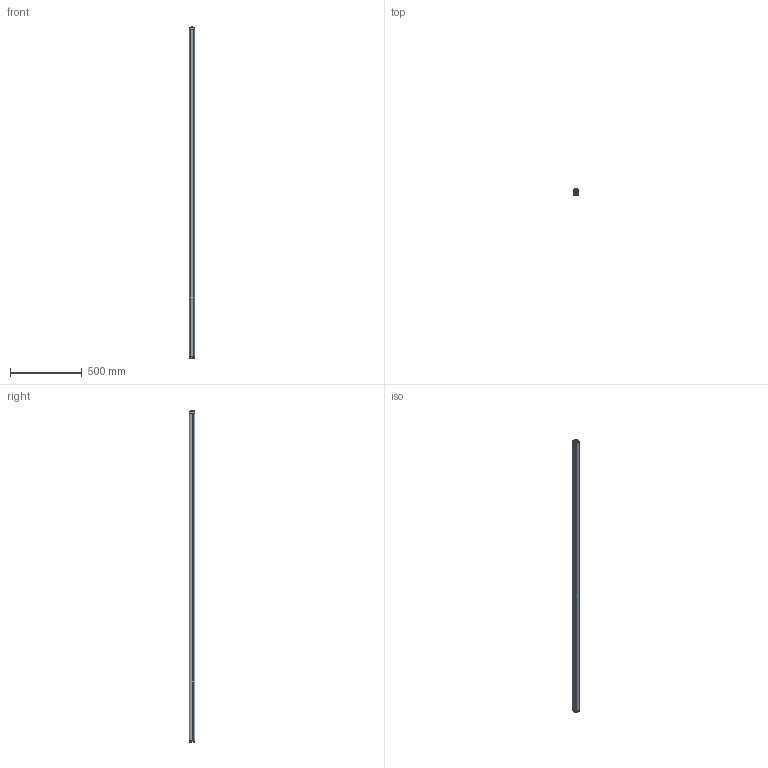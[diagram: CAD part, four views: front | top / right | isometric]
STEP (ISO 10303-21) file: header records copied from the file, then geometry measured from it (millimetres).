
FILE_DESCRIPTION(/* description */ (''),/* implementation_level */ '2;1');
FILE_NAME(/* name */ 'DSD-1026 DS2-05-07-225-JE _RX_STP.stp',/* time_stamp */ '2020-07-21T16:56:28+02:00',/* author */ (''),/* organization */ (''),/* preprocessor_version */ 'ST-DEVELOPER v16.7',/* originating_system */ 'SIEMENS PLM Software NX 12.0',/* authorisation */ '');
FILE_SCHEMA (('AUTOMOTIVE_DESIGN { 1 0 10303 214 3 1 1 1 }'));
Length unit declared in the file: millimetre
Products named in the file (1): fgut3274CB3Etkdj
Bounding box: 35 x 40.1 x 2314 mm (x, y, z)
Volume: 2797426.2 mm3; surface area: 447982.5 mm2
Topology: 1 solids, 7 shells, 1056 faces, 2651 edges, 1622 vertices
Faces by surface type: plane 402, cylinder 341, bspline 165, cone 98, sphere 28, torus 22
Full cylindrical faces by diameter (mm): 0.8 x8, 1 x4, 2 x1, 2.4 x2, 2.6 x4, 3 x1, 3.7 x4, 3.8 x4, 4.2 x1, 5 x8, 6 x1, 6.8 x1, 8.3 x1, 8.45 x1, 10.45 x1, 10.5 x1, 10.55 x2, 12 x16, 14 x2, 14.5 x2
Entity records: 43591 total; most frequent: CARTESIAN_POINT 15092, ORIENTED_EDGE 5120, DIRECTION 4182, EDGE_CURVE 2560, AXIS2_PLACEMENT_3D 1640, VERTEX_POINT 1611, EDGE_LOOP 1153, ADVANCED_FACE 1056
